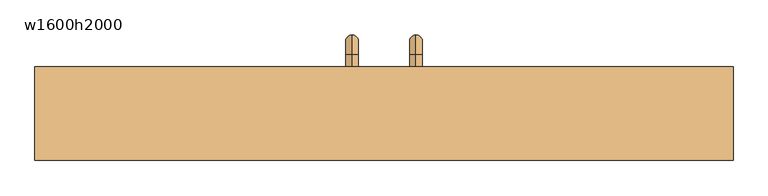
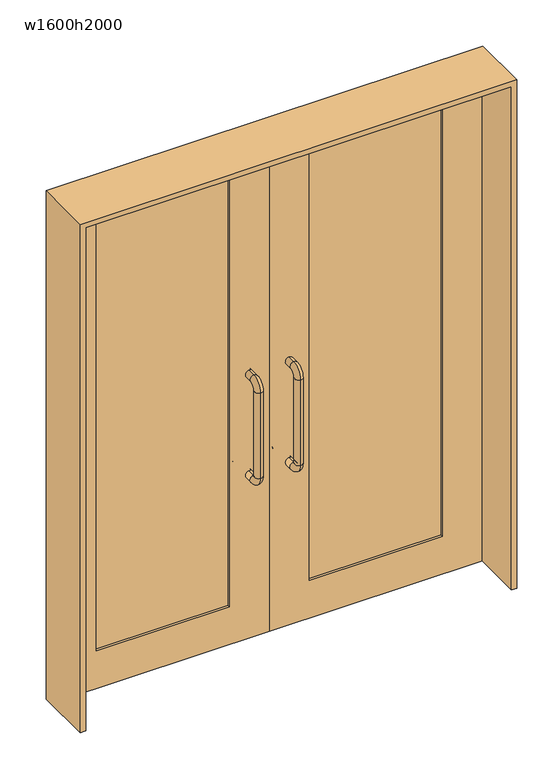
"""IFC4 building model written with IfcOpenShell, lengths in millimetres: door geometry, 両開_ガラス四方框 : w1600h2000."""

import ifcopenshell
import ifcopenshell.guid

model = None  # the IFC model being written
_history = None  # IfcOwnerHistory: only IFC2X3 demands one
_inside = {}  # id of a spatial element -> (the spatial element, [elements in it])
_under = {}  # id of a project, library or spatial element -> (it, [spatial elements below it])
_declared = {}  # id of a project -> (the project, [libraries it declares])
_typed = {}  # id of a type object -> (the type object, [elements of that type])
_made_of = {}  # id of a material, layer set ... -> (it, [elements and type objects made of it])


def new_model(schema):
    """Start an empty IFC model of exactly this schema.

    Asked for "IFC4X3", IfcOpenShell would pick the latest addendum, in which some entities
    have other attributes; the version numbers below select the first issue.
    IFC2X3 requires an IfcOwnerHistory on every rooted entity: one is made here for all.
    """
    global model, _history
    if schema == "IFC4X3":
        model = ifcopenshell.file(schema_version=(4, 3, 0, 0))
    else:
        model = ifcopenshell.file(schema=schema)
    _inside.clear()
    _under.clear()
    _declared.clear()
    _typed.clear()
    _made_of.clear()
    _history = None
    if model.schema == "IFC2X3":
        org = make("IfcOrganization", Name="unknown")
        user = make(
            "IfcPersonAndOrganization",
            ThePerson=make("IfcPerson", FamilyName="unknown"),
            TheOrganization=org,
        )
        app = make(
            "IfcApplication",
            ApplicationDeveloper=org,
            Version="unknown",
            ApplicationFullName="unknown",
            ApplicationIdentifier="unknown",
        )
        _history = make(
            "IfcOwnerHistory",
            OwningUser=user,
            OwningApplication=app,
            ChangeAction="ADDED",
            CreationDate=0,
        )
    return model


def make(cls, **values):
    """One entity of the class cls with the attributes given. An attribute that is None is left unset."""
    return model.create_entity(
        cls, **{name: value for name, value in values.items() if value is not None}
    )


def rooted(cls, **values):
    """An entity with a GlobalId (a new one), such as an element, a storey or a relation."""
    return make(cls, GlobalId=ifcopenshell.guid.new(), OwnerHistory=_history, **values)


def si_unit(unit_type, name, prefix=None):
    """IfcSIUnit, for example si_unit("LENGTHUNIT", "METRE", prefix="MILLI")."""
    return make("IfcSIUnit", UnitType=unit_type, Prefix=prefix, Name=name)


def assignment(units):
    """IfcUnitAssignment: the units of a project."""
    return None if units is None else make("IfcUnitAssignment", Units=units)


def point(xyz):
    """IfcCartesianPoint."""
    return None if xyz is None else make("IfcCartesianPoint", Coordinates=xyz)


def direction(xyz):
    """IfcDirection."""
    return None if xyz is None else make("IfcDirection", DirectionRatios=xyz)


def frame(location, z_axis=None, x_axis=None):
    """IfcAxis2Placement3D, a coordinate frame: its origin and axes. An axis left out is left unset."""
    return make(
        "IfcAxis2Placement3D",
        Location=point(location),
        Axis=direction(z_axis),
        RefDirection=direction(x_axis),
    )


def origin():
    """The frame at (0, 0, 0) with its axes left unset."""
    return frame((0.0, 0.0, 0.0))


def place(relative_to, where):
    """IfcLocalPlacement: puts the frame where relative to a parent placement (None: the world)."""
    return make(
        "IfcLocalPlacement", PlacementRelTo=relative_to, RelativePlacement=where
    )


def context(
    kind, dimensions, precision=None, world=None, true_north=None, identifier=None
):
    """IfcGeometricRepresentationContext, for example the 3D "Model" context."""
    return make(
        "IfcGeometricRepresentationContext",
        ContextIdentifier=identifier,
        ContextType=kind,
        CoordinateSpaceDimension=dimensions,
        Precision=precision,
        WorldCoordinateSystem=world,
        TrueNorth=true_north,
    )


def project(units=None, contexts=None):
    """IfcProject with its units and contexts."""
    return rooted(
        "IfcProject",
        Name="project",
        RepresentationContexts=contexts,
        UnitsInContext=assignment(units),
    )


def spatial(cls, under=None, at=None, **own):
    """A site, building, storey or space (cls), placed at a placement, below another one or the project."""
    s = rooted(cls, ObjectPlacement=at, **own)
    if under is not None:
        _under.setdefault(under.id(), (under, []))[1].append(s)
    return s


def polyline(points):
    """IfcPolyline through the points."""
    return make("IfcPolyline", Points=[point(p) for p in points])


def circle_curve(where, radius):
    """IfcCircle in the frame where."""
    return make("IfcCircle", Position=where, Radius=radius)


def ellipse_curve(where, semi_axis1, semi_axis2):
    """IfcEllipse in the frame where."""
    return make(
        "IfcEllipse", Position=where, SemiAxis1=semi_axis1, SemiAxis2=semi_axis2
    )


def trimmed(basis, trim1, trim2, sense, master):
    """IfcTrimmedCurve: the piece of a basis curve between two trims."""
    return make(
        "IfcTrimmedCurve",
        BasisCurve=basis,
        Trim1=trim1,
        Trim2=trim2,
        SenseAgreement=sense,
        MasterRepresentation=master,
    )


def outline(outer, holes=None, kind="AREA"):
    """IfcArbitraryClosedProfileDef: a profile drawn as a closed curve; with holes, ...WithVoids."""
    if holes is None:
        return make("IfcArbitraryClosedProfileDef", ProfileType=kind, OuterCurve=outer)
    return make(
        "IfcArbitraryProfileDefWithVoids",
        ProfileType=kind,
        OuterCurve=outer,
        InnerCurves=holes,
    )


def extrude(swept, where, along, depth):
    """IfcExtrudedAreaSolid: the profile swept, set in the frame where, extruded along a direction by depth."""
    return make(
        "IfcExtrudedAreaSolid",
        SweptArea=swept,
        Position=where,
        ExtrudedDirection=direction(along),
        Depth=depth,
    )


def shape(context_of_items, identifier, shape_type, items):
    """IfcShapeRepresentation: the items that make up one representation, for example the "Body"."""
    return make(
        "IfcShapeRepresentation",
        ContextOfItems=context_of_items,
        RepresentationIdentifier=identifier,
        RepresentationType=shape_type,
        Items=items,
    )


def source(mapping_origin, context_of_items, identifier, shape_type, items):
    """IfcRepresentationMap: a shape defined once, which mapped items show again and again."""
    return make(
        "IfcRepresentationMap",
        MappingOrigin=mapping_origin,
        MappedRepresentation=shape(context_of_items, identifier, shape_type, items),
    )


def transform(
    local_origin,
    x_axis=None,
    y_axis=None,
    z_axis=None,
    scale=None,
    scale2=None,
    scale3=None,
    uniform=True,
):
    """IfcCartesianTransformationOperator3D, or its non-uniform kind. x_axis, y_axis, z_axis: its Axis1, 2, 3."""
    if uniform:
        return make(
            "IfcCartesianTransformationOperator3D",
            Axis1=direction(x_axis),
            Axis2=direction(y_axis),
            LocalOrigin=point(local_origin),
            Scale=scale,
            Axis3=direction(z_axis),
        )
    return make(
        "IfcCartesianTransformationOperator3DnonUniform",
        Axis1=direction(x_axis),
        Axis2=direction(y_axis),
        LocalOrigin=point(local_origin),
        Scale=scale,
        Axis3=direction(z_axis),
        Scale2=scale2,
        Scale3=scale3,
    )


def mapped(mapping_source, mapping_target):
    """IfcMappedItem: shows the shape of a source again, moved by a transform."""
    return make(
        "IfcMappedItem", MappingSource=mapping_source, MappingTarget=mapping_target
    )


def made_of(thing, what):
    """Note that an element or type object is made of a material, layer set ...; save() writes the relation."""
    if what is not None:
        _made_of.setdefault(what.id(), (what, []))[1].append(thing)
    return thing


def element(
    cls,
    number,
    at=None,
    inside=None,
    cuts=None,
    type_object=None,
    material=None,
    context=None,
    identifier="Body",
    shape_type=None,
    held_by="IfcProductDefinitionShape",
    body=None,
    shapes=None,
    **own,
):
    """One element of the class cls, such as IfcWall. Its Tag is "e" and its number.

    at: its placement. inside: the storey or other place that contains it. cuts: it is an
    opening in that element (IfcRelVoidsElement). A single representation is given by context,
    identifier, shape_type and body (its items); several are given by shapes. held_by: the class
    of the entity that holds the representations. save() writes the other relations.
    """
    e = rooted(cls, Tag="e%d" % number, ObjectPlacement=at, **own)
    if body is not None:
        shapes = [shape(context, identifier, shape_type, body)]
    if shapes is not None:
        e.Representation = make(held_by, Representations=shapes)
    if inside is not None:
        _inside.setdefault(inside.id(), (inside, []))[1].append(e)
    if cuts is not None:
        rooted(
            "IfcRelVoidsElement", RelatingBuildingElement=cuts, RelatedOpeningElement=e
        )
    if type_object is not None:
        _typed.setdefault(type_object.id(), (type_object, []))[1].append(e)
    return made_of(e, material)


def aggregate(whole, parts):
    """IfcRelAggregates: a whole, such as a stair, and the parts it consists of."""
    return rooted("IfcRelAggregates", RelatingObject=whole, RelatedObjects=parts)


def save(model, path):
    """Write the relations noted so far, then the file.

    IfcRelAggregates (storeys below a building ...), IfcRelContainedInSpatialStructure (elements
    in a storey), IfcRelDefinesByType, IfcRelAssociatesMaterial and IfcRelDeclares: one each for
    every whole, place, type object, material and project.
    """
    for whole, parts in _under.values():
        aggregate(whole, parts)
    for where, things in _inside.values():
        rooted(
            "IfcRelContainedInSpatialStructure",
            RelatedElements=things,
            RelatingStructure=where,
        )
    for kind, things in _typed.values():
        rooted("IfcRelDefinesByType", RelatedObjects=things, RelatingType=kind)
    for what, things in _made_of.values():
        rooted("IfcRelAssociatesMaterial", RelatedObjects=things, RelatingMaterial=what)
    for by, libraries in _declared.values():
        rooted("IfcRelDeclares", RelatingContext=by, RelatedDefinitions=libraries)
    model.write(path)


def cylinder_surface(at, radius):
    """IfcCylindricalSurface: all points at the distance radius from the z axis of the frame at."""
    return make("IfcCylindricalSurface", Position=at, Radius=radius)


def revolved_surface(curve, axis_point, axis_direction):
    """IfcSurfaceOfRevolution: the curve turned about the line through axis_point along axis_direction."""
    return make(
        "IfcSurfaceOfRevolution",
        SweptCurve=make("IfcArbitraryOpenProfileDef", ProfileType="CURVE", Curve=curve),
        AxisPosition=make("IfcAxis1Placement", Location=point(axis_point), Axis=direction(axis_direction)),
    )


def advanced_brep(points, edges, surfaces, faces):
    """IfcAdvancedBrep: a solid bounded by faces that lie on surfaces and meet in shared edges.

    An edge is (start, end): straight between two places in points (the first is 0);
    or (start, end, curve); or (start, end, curve, False) where it runs against its curve.
    A face is (place in surfaces, loops), or (place, loops, False) where it looks against
    its surface's normal. A loop lists edges by number (the first is 1), with a minus sign
    where the edge is run from its end to its start. The first loop is the outer one.
    """
    corners = [point(p) for p in points]
    vertices = [make("IfcVertexPoint", VertexGeometry=c) for c in corners]
    made = []
    for start, end, *more in edges:
        made.append(
            make(
                "IfcEdgeCurve",
                EdgeStart=vertices[start],
                EdgeEnd=vertices[end],
                EdgeGeometry=more[0] if more else make("IfcPolyline", Points=[corners[start], corners[end]]),
                SameSense=more[1] if len(more) > 1 else True,
            )
        )
    hull = []
    for where, loops, *sense in faces:
        bounds = []
        for j, loop in enumerate(loops):
            ring = [make("IfcOrientedEdge", EdgeElement=made[abs(k) - 1], Orientation=k > 0) for k in loop]
            bounds.append(
                make(
                    "IfcFaceOuterBound" if j == 0 else "IfcFaceBound",
                    Bound=make("IfcEdgeLoop", EdgeList=ring),
                    Orientation=True,
                )
            )
        hull.append(make("IfcAdvancedFace", Bounds=bounds, FaceSurface=surfaces[where], SameSense=sense[0] if sense else True))
    return make("IfcAdvancedBrep", Outer=make("IfcClosedShell", CfsFaces=hull))


def w1600h2000_3fdee943(model_context):
    return source(origin(), model_context, "Body", "SolidModel", [
        advanced_brep(
        [(75.0, 155.0, 680.0), (75.0, 140.0, 665.0), (75.0, 140.0, 635.0), (75.0, 185.0, 680.0), (75.0, 185.0, 1020.0), (75.0, 155.0, 1020.0), (75.0, 140.0, 1035.0), (75.0, 140.0, 1065.0), (75.0, 50.0, 1065.0), (75.0, 50.0, 1035.0), (75.0, 35.0, 1020.0), (75.0, 5.0, 1020.0), (75.0, 5.0, 680.0), (75.0, 35.0, 680.0), (75.0, 50.0, 665.0), (75.0, 50.0, 635.0)],
        [
            (0, 1, circle_curve(frame((75.0, 140.0, 680.0), z_axis=(-1.0, 0.0, 0.0), x_axis=(0.0, 0.0, -1.0)), 15.0)),
            (1, 2, circle_curve(frame((75.0, 140.0, 650.0), z_axis=(0.0, 1.0, 0.0), x_axis=(0.0, 0.0, 1.0)), 15.0)),
            (2, 3, circle_curve(frame((75.0, 140.0, 680.0), z_axis=(1.0, 0.0, 0.0), x_axis=(0.0, 0.0, -1.0)), 45.0)),
            (3, 0, circle_curve(frame((75.0, 170.0, 680.0), z_axis=(0.0, 0.0, -1.0), x_axis=(0.0, -1.0, 0.0)), 15.0)),
            (2, 1, circle_curve(frame((75.0, 140.0, 650.0), z_axis=(0.0, 1.0, 0.0), x_axis=(0.0, 0.0, 1.0)), 15.0)),
            (0, 3, circle_curve(frame((75.0, 170.0, 680.0), z_axis=(0.0, 0.0, -1.0), x_axis=(0.0, -1.0, 0.0)), 15.0)),
            (3, 4),
            (4, 5, circle_curve(frame((75.0, 170.0, 1020.0), z_axis=(0.0, 0.0, -1.0), x_axis=(0.0, -1.0, 0.0)), 15.0)),
            (5, 0),
            (5, 4, circle_curve(frame((75.0, 170.0, 1020.0), z_axis=(0.0, 0.0, -1.0), x_axis=(0.0, -1.0, 0.0)), 15.0)),
            (6, 5, circle_curve(frame((75.0, 140.0, 1020.0), z_axis=(-1.0, 0.0, 0.0), x_axis=(0.0, 1.0, 0.0)), 15.0)),
            (4, 7, circle_curve(frame((75.0, 140.0, 1020.0), z_axis=(1.0, 0.0, 0.0), x_axis=(0.0, 1.0, 0.0)), 45.0)),
            (7, 6, circle_curve(frame((75.0, 140.0, 1050.0), z_axis=(0.0, 1.0, 0.0), x_axis=(0.0, 0.0, -1.0)), 15.0)),
            (6, 7, circle_curve(frame((75.0, 140.0, 1050.0), z_axis=(0.0, 1.0, 0.0), x_axis=(0.0, 0.0, -1.0)), 15.0)),
            (7, 8),
            (8, 9, circle_curve(frame((75.0, 50.0, 1050.0), z_axis=(0.0, 1.0, 0.0), x_axis=(0.0, 0.0, -1.0)), 15.0)),
            (9, 6),
            (9, 8, circle_curve(frame((75.0, 50.0, 1050.0), z_axis=(0.0, 1.0, 0.0), x_axis=(0.0, 0.0, -1.0)), 15.0)),
            (10, 9, circle_curve(frame((75.0, 50.0, 1020.0), z_axis=(-1.0, 0.0, 0.0), x_axis=(0.0, 0.0, 1.0)), 15.0)),
            (8, 11, circle_curve(frame((75.0, 50.0, 1020.0), z_axis=(1.0, 0.0, 0.0), x_axis=(0.0, 0.0, 1.0)), 45.0)),
            (11, 10, circle_curve(frame((75.0, 20.0, 1020.0), z_axis=(0.0, 0.0, 1.0), x_axis=(0.0, 1.0, 0.0)), 15.0)),
            (10, 11, circle_curve(frame((75.0, 20.0, 1020.0), z_axis=(0.0, 0.0, 1.0), x_axis=(0.0, 1.0, 0.0)), 15.0)),
            (11, 12),
            (12, 13, circle_curve(frame((75.0, 20.0, 680.0), z_axis=(0.0, 0.0, 1.0), x_axis=(0.0, 1.0, 0.0)), 15.0)),
            (13, 10),
            (13, 12, circle_curve(frame((75.0, 20.0, 680.0), z_axis=(0.0, 0.0, 1.0), x_axis=(0.0, 1.0, 0.0)), 15.0)),
            (14, 13, circle_curve(frame((75.0, 50.0, 680.0), z_axis=(-1.0, 0.0, 0.0), x_axis=(0.0, -1.0, 0.0)), 15.0)),
            (12, 15, circle_curve(frame((75.0, 50.0, 680.0), z_axis=(1.0, 0.0, 0.0), x_axis=(0.0, -1.0, 0.0)), 45.0)),
            (15, 14, circle_curve(frame((75.0, 50.0, 650.0), z_axis=(0.0, -1.0, 0.0), x_axis=(0.0, 0.0, 1.0)), 15.0)),
            (14, 15, circle_curve(frame((75.0, 50.0, 650.0), z_axis=(0.0, -1.0, 0.0), x_axis=(0.0, 0.0, 1.0)), 15.0)),
            (15, 2),
            (1, 14),
        ],
        [
            revolved_surface(trimmed(ellipse_curve(frame((75.0, 140.0, 650.0), z_axis=(0.0, -1.0, 0.0), x_axis=(0.0, 0.0, 1.0)), 15.0, 15.0), [point((75.0, 140.0, 635.0))], [point((75.0, 140.0, 665.0))], True, "CARTESIAN"), (75.0, 140.0, 680.0), (1.0, 0.0, 0.0)),
            revolved_surface(trimmed(ellipse_curve(frame((75.0, 140.0, 650.0), z_axis=(0.0, -1.0, 0.0), x_axis=(0.0, 0.0, 1.0)), 15.0, 15.0), [point((75.0, 140.0, 665.0))], [point((75.0, 140.0, 635.0))], True, "CARTESIAN"), (75.0, 140.0, 680.0), (1.0, 0.0, 0.0)),
            cylinder_surface(frame((75.0, 170.0, 680.0), z_axis=(0.0, 0.0, -1.0), x_axis=(0.0, -1.0, 0.0)), 15.0),
            revolved_surface(trimmed(ellipse_curve(frame((75.0, 170.0, 1020.0), z_axis=(0.0, 0.0, -1.0), x_axis=(0.0, -1.0, 0.0)), 15.0, 15.0), [point((75.0, 185.0, 1020.0))], [point((75.0, 155.0, 1020.0))], True, "CARTESIAN"), (75.0, 140.0, 1020.0), (1.0, 0.0, 0.0)),
            revolved_surface(trimmed(ellipse_curve(frame((75.0, 170.0, 1020.0), z_axis=(0.0, 0.0, -1.0), x_axis=(0.0, -1.0, 0.0)), 15.0, 15.0), [point((75.0, 155.0, 1020.0))], [point((75.0, 185.0, 1020.0))], True, "CARTESIAN"), (75.0, 140.0, 1020.0), (1.0, 0.0, 0.0)),
            cylinder_surface(frame((75.0, 140.0, 1050.0), z_axis=(0.0, 1.0, 0.0), x_axis=(0.0, 0.0, -1.0)), 15.0),
            revolved_surface(trimmed(ellipse_curve(frame((75.0, 50.0, 1050.0), z_axis=(0.0, 1.0, 0.0), x_axis=(0.0, 0.0, -1.0)), 15.0, 15.0), [point((75.0, 50.0, 1065.0))], [point((75.0, 50.0, 1035.0))], True, "CARTESIAN"), (75.0, 50.0, 1020.0), (1.0, 0.0, 0.0)),
            revolved_surface(trimmed(ellipse_curve(frame((75.0, 50.0, 1050.0), z_axis=(0.0, 1.0, 0.0), x_axis=(0.0, 0.0, -1.0)), 15.0, 15.0), [point((75.0, 50.0, 1035.0))], [point((75.0, 50.0, 1065.0))], True, "CARTESIAN"), (75.0, 50.0, 1020.0), (1.0, 0.0, 0.0)),
            cylinder_surface(frame((75.0, 20.0, 1020.0), z_axis=(0.0, 0.0, 1.0), x_axis=(0.0, 1.0, 0.0)), 15.0),
            revolved_surface(trimmed(ellipse_curve(frame((75.0, 20.0, 680.0), z_axis=(0.0, 0.0, 1.0), x_axis=(0.0, 1.0, 0.0)), 15.0, 15.0), [point((75.0, 5.0, 680.0))], [point((75.0, 35.0, 680.0))], True, "CARTESIAN"), (75.0, 50.0, 680.0), (1.0, 0.0, 0.0)),
            revolved_surface(trimmed(ellipse_curve(frame((75.0, 20.0, 680.0), z_axis=(0.0, 0.0, 1.0), x_axis=(0.0, 1.0, 0.0)), 15.0, 15.0), [point((75.0, 35.0, 680.0))], [point((75.0, 5.0, 680.0))], True, "CARTESIAN"), (75.0, 50.0, 680.0), (1.0, 0.0, 0.0)),
            cylinder_surface(frame((75.0, 50.0, 650.0), z_axis=(0.0, -1.0, 0.0), x_axis=(0.0, 0.0, 1.0)), 15.0),
        ],
        [
            (0, [[1, 2, 3, 4]]),
            (1, [[-3, 5, -1, 6]]),
            (2, [[-4, 7, 8, 9]]),
            (2, [[-6, -9, 10, -7]]),
            (3, [[11, -8, 12, 13]]),
            (4, [[-12, -10, -11, 14]]),
            (5, [[-13, 15, 16, 17]]),
            (5, [[-14, -17, 18, -15]]),
            (6, [[19, -16, 20, 21]]),
            (7, [[-20, -18, -19, 22]]),
            (8, [[-21, 23, 24, 25]]),
            (8, [[-22, -25, 26, -23]]),
            (9, [[27, -24, 28, 29]]),
            (10, [[-28, -26, -27, 30]]),
            (11, [[-29, 31, -2, 32]]),
            (11, [[-30, -32, -5, -31]]),
        ],
    ),
        advanced_brep(
        [(-75.0, 155.0, 680.0), (-75.0, 140.0, 665.0), (-75.0, 140.0, 635.0), (-75.0, 185.0, 680.0), (-75.0, 185.0, 1020.0), (-75.0, 155.0, 1020.0), (-75.0, 140.0, 1035.0), (-75.0, 140.0, 1065.0), (-75.0, 50.0, 1065.0), (-75.0, 50.0, 1035.0), (-75.0, 35.0, 1020.0), (-75.0, 5.0, 1020.0), (-75.0, 5.0, 680.0), (-75.0, 35.0, 680.0), (-75.0, 50.0, 665.0), (-75.0, 50.0, 635.0)],
        [
            (0, 1, circle_curve(frame((-75.0, 140.0, 680.0), z_axis=(-1.0, 0.0, 0.0), x_axis=(0.0, 0.0, -1.0)), 15.0)),
            (1, 2, circle_curve(frame((-75.0, 140.0, 650.0), z_axis=(0.0, 1.0, 0.0), x_axis=(0.0, 0.0, 1.0)), 15.0)),
            (2, 3, circle_curve(frame((-75.0, 140.0, 680.0), z_axis=(1.0, 0.0, 0.0), x_axis=(0.0, 0.0, -1.0)), 45.0)),
            (3, 0, circle_curve(frame((-75.0, 170.0, 680.0), z_axis=(0.0, 0.0, -1.0), x_axis=(0.0, -1.0, 0.0)), 15.0)),
            (2, 1, circle_curve(frame((-75.0, 140.0, 650.0), z_axis=(0.0, 1.0, 0.0), x_axis=(0.0, 0.0, 1.0)), 15.0)),
            (0, 3, circle_curve(frame((-75.0, 170.0, 680.0), z_axis=(0.0, 0.0, -1.0), x_axis=(0.0, -1.0, 0.0)), 15.0)),
            (3, 4),
            (4, 5, circle_curve(frame((-75.0, 170.0, 1020.0), z_axis=(0.0, 0.0, -1.0), x_axis=(0.0, -1.0, 0.0)), 15.0)),
            (5, 0),
            (5, 4, circle_curve(frame((-75.0, 170.0, 1020.0), z_axis=(0.0, 0.0, -1.0), x_axis=(0.0, -1.0, 0.0)), 15.0)),
            (6, 5, circle_curve(frame((-75.0, 140.0, 1020.0), z_axis=(-1.0, 0.0, 0.0), x_axis=(0.0, 1.0, 0.0)), 15.0)),
            (4, 7, circle_curve(frame((-75.0, 140.0, 1020.0), z_axis=(1.0, 0.0, 0.0), x_axis=(0.0, 1.0, 0.0)), 45.0)),
            (7, 6, circle_curve(frame((-75.0, 140.0, 1050.0), z_axis=(0.0, 1.0, 0.0), x_axis=(0.0, 0.0, -1.0)), 15.0)),
            (6, 7, circle_curve(frame((-75.0, 140.0, 1050.0), z_axis=(0.0, 1.0, 0.0), x_axis=(0.0, 0.0, -1.0)), 15.0)),
            (7, 8),
            (8, 9, circle_curve(frame((-75.0, 50.0, 1050.0), z_axis=(0.0, 1.0, 0.0), x_axis=(0.0, 0.0, -1.0)), 15.0)),
            (9, 6),
            (9, 8, circle_curve(frame((-75.0, 50.0, 1050.0), z_axis=(0.0, 1.0, 0.0), x_axis=(0.0, 0.0, -1.0)), 15.0)),
            (10, 9, circle_curve(frame((-75.0, 50.0, 1020.0), z_axis=(-1.0, 0.0, 0.0), x_axis=(0.0, 0.0, 1.0)), 15.0)),
            (8, 11, circle_curve(frame((-75.0, 50.0, 1020.0), z_axis=(1.0, 0.0, 0.0), x_axis=(0.0, 0.0, 1.0)), 45.0)),
            (11, 10, circle_curve(frame((-75.0, 20.0, 1020.0), z_axis=(0.0, 0.0, 1.0), x_axis=(0.0, 1.0, 0.0)), 15.0)),
            (10, 11, circle_curve(frame((-75.0, 20.0, 1020.0), z_axis=(0.0, 0.0, 1.0), x_axis=(0.0, 1.0, 0.0)), 15.0)),
            (11, 12),
            (12, 13, circle_curve(frame((-75.0, 20.0, 680.0), z_axis=(0.0, 0.0, 1.0), x_axis=(0.0, 1.0, 0.0)), 15.0)),
            (13, 10),
            (13, 12, circle_curve(frame((-75.0, 20.0, 680.0), z_axis=(0.0, 0.0, 1.0), x_axis=(0.0, 1.0, 0.0)), 15.0)),
            (14, 13, circle_curve(frame((-75.0, 50.0, 680.0), z_axis=(-1.0, 0.0, 0.0), x_axis=(0.0, -1.0, 0.0)), 15.0)),
            (12, 15, circle_curve(frame((-75.0, 50.0, 680.0), z_axis=(1.0, 0.0, 0.0), x_axis=(0.0, -1.0, 0.0)), 45.0)),
            (15, 14, circle_curve(frame((-75.0, 50.0, 650.0), z_axis=(0.0, -1.0, 0.0), x_axis=(0.0, 0.0, 1.0)), 15.0)),
            (14, 15, circle_curve(frame((-75.0, 50.0, 650.0), z_axis=(0.0, -1.0, 0.0), x_axis=(0.0, 0.0, 1.0)), 15.0)),
            (15, 2),
            (1, 14),
        ],
        [
            revolved_surface(trimmed(ellipse_curve(frame((-75.0, 140.0, 650.0), z_axis=(0.0, -1.0, 0.0), x_axis=(0.0, 0.0, 1.0)), 15.0, 15.0), [point((-75.0, 140.0, 635.0))], [point((-75.0, 140.0, 665.0))], True, "CARTESIAN"), (-75.0, 140.0, 680.0), (1.0, 0.0, 0.0)),
            revolved_surface(trimmed(ellipse_curve(frame((-75.0, 140.0, 650.0), z_axis=(0.0, -1.0, 0.0), x_axis=(0.0, 0.0, 1.0)), 15.0, 15.0), [point((-75.0, 140.0, 665.0))], [point((-75.0, 140.0, 635.0))], True, "CARTESIAN"), (-75.0, 140.0, 680.0), (1.0, 0.0, 0.0)),
            cylinder_surface(frame((-75.0, 170.0, 680.0), z_axis=(0.0, 0.0, -1.0), x_axis=(0.0, -1.0, 0.0)), 15.0),
            revolved_surface(trimmed(ellipse_curve(frame((-75.0, 170.0, 1020.0), z_axis=(0.0, 0.0, -1.0), x_axis=(0.0, -1.0, 0.0)), 15.0, 15.0), [point((-75.0, 185.0, 1020.0))], [point((-75.0, 155.0, 1020.0))], True, "CARTESIAN"), (-75.0, 140.0, 1020.0), (1.0, 0.0, 0.0)),
            revolved_surface(trimmed(ellipse_curve(frame((-75.0, 170.0, 1020.0), z_axis=(0.0, 0.0, -1.0), x_axis=(0.0, -1.0, 0.0)), 15.0, 15.0), [point((-75.0, 155.0, 1020.0))], [point((-75.0, 185.0, 1020.0))], True, "CARTESIAN"), (-75.0, 140.0, 1020.0), (1.0, 0.0, 0.0)),
            cylinder_surface(frame((-75.0, 140.0, 1050.0), z_axis=(0.0, 1.0, 0.0), x_axis=(0.0, 0.0, -1.0)), 15.0),
            revolved_surface(trimmed(ellipse_curve(frame((-75.0, 50.0, 1050.0), z_axis=(0.0, 1.0, 0.0), x_axis=(0.0, 0.0, -1.0)), 15.0, 15.0), [point((-75.0, 50.0, 1065.0))], [point((-75.0, 50.0, 1035.0))], True, "CARTESIAN"), (-75.0, 50.0, 1020.0), (1.0, 0.0, 0.0)),
            revolved_surface(trimmed(ellipse_curve(frame((-75.0, 50.0, 1050.0), z_axis=(0.0, 1.0, 0.0), x_axis=(0.0, 0.0, -1.0)), 15.0, 15.0), [point((-75.0, 50.0, 1035.0))], [point((-75.0, 50.0, 1065.0))], True, "CARTESIAN"), (-75.0, 50.0, 1020.0), (1.0, 0.0, 0.0)),
            cylinder_surface(frame((-75.0, 20.0, 1020.0), z_axis=(0.0, 0.0, 1.0), x_axis=(0.0, 1.0, 0.0)), 15.0),
            revolved_surface(trimmed(ellipse_curve(frame((-75.0, 20.0, 680.0), z_axis=(0.0, 0.0, 1.0), x_axis=(0.0, 1.0, 0.0)), 15.0, 15.0), [point((-75.0, 5.0, 680.0))], [point((-75.0, 35.0, 680.0))], True, "CARTESIAN"), (-75.0, 50.0, 680.0), (1.0, 0.0, 0.0)),
            revolved_surface(trimmed(ellipse_curve(frame((-75.0, 20.0, 680.0), z_axis=(0.0, 0.0, 1.0), x_axis=(0.0, 1.0, 0.0)), 15.0, 15.0), [point((-75.0, 35.0, 680.0))], [point((-75.0, 5.0, 680.0))], True, "CARTESIAN"), (-75.0, 50.0, 680.0), (1.0, 0.0, 0.0)),
            cylinder_surface(frame((-75.0, 50.0, 650.0), z_axis=(0.0, -1.0, 0.0), x_axis=(0.0, 0.0, 1.0)), 15.0),
        ],
        [
            (0, [[1, 2, 3, 4]]),
            (1, [[-3, 5, -1, 6]]),
            (2, [[-4, 7, 8, 9]]),
            (2, [[-6, -9, 10, -7]]),
            (3, [[11, -8, 12, 13]]),
            (4, [[-12, -10, -11, 14]]),
            (5, [[-13, 15, 16, 17]]),
            (5, [[-14, -17, 18, -15]]),
            (6, [[19, -16, 20, 21]]),
            (7, [[-20, -18, -19, 22]]),
            (8, [[-21, 23, 24, 25]]),
            (8, [[-22, -25, 26, -23]]),
            (9, [[27, -24, 28, 29]]),
            (10, [[-28, -26, -27, 30]]),
            (11, [[-29, 31, -2, 32]]),
            (11, [[-30, -32, -5, -31]]),
        ],
    ),
        extrude(outline(polyline([(-150.0, 90.0), (-650.0, 90.0), (-650.0, 92.5), (-150.0, 92.5), (-150.0, 90.0)])), frame((0.0, 0.0, 150.0), z_axis=(0.0, 0.0, 1.0), x_axis=(1.0, 0.0, 0.0)), (0.0, 0.0, 1.0), 1700.0),
        extrude(outline(polyline([(650.0, 90.0), (150.0, 90.0), (150.0, 92.5), (650.0, 92.5), (650.0, 90.0)])), frame((0.0, 0.0, 150.0), z_axis=(0.0, 0.0, 1.0), x_axis=(1.0, 0.0, 0.0)), (0.0, 0.0, 1.0), 1700.0),
        extrude(outline(polyline([(2000.0, 0.0), (2000.0, -800.0), (0.0, -800.0), (0.0, 0.0), (2000.0, 0.0)]), holes=[polyline([(1850.0, -150.0), (150.0, -150.0), (150.0, -650.0), (1850.0, -650.0), (1850.0, -150.0)])]), frame((0.0, 80.0, 0.0), z_axis=(0.0, 1.0, 0.0), x_axis=(0.0, 0.0, 1.0)), (0.0, 0.0, 1.0), 30.0),
        extrude(outline(polyline([(2020.0, -820.0), (0.0, -820.0), (0.0, -800.0), (2000.0, -800.0), (2000.0, 800.0), (0.0, 800.0), (0.0, 820.0), (2020.0, 820.0), (2020.0, -820.0)])), frame((0.0, -110.0, 0.0), z_axis=(0.0, 1.0, 0.0), x_axis=(0.0, 0.0, 1.0)), (0.0, 0.0, 1.0), 220.0),
        extrude(outline(polyline([(2000.0, 800.0), (2000.0, 0.0), (0.0, 0.0), (0.0, 800.0), (2000.0, 800.0)]), holes=[polyline([(1850.0, 650.0), (150.0, 650.0), (150.0, 150.0), (1850.0, 150.0), (1850.0, 650.0)])]), frame((0.0, 80.0, 0.0), z_axis=(0.0, 1.0, 0.0), x_axis=(0.0, 0.0, 1.0)), (0.0, 0.0, 1.0), 30.0),
    ])


if __name__ == "__main__":
    model = new_model("IFC4")
    model_context = context("Model", 3, world=origin())
    ifc_project = project(units=[si_unit("LENGTHUNIT", "METRE", prefix="MILLI")], contexts=[model_context])
    site = spatial("IfcSite", under=ifc_project)
    building = spatial("IfcBuilding", under=site)
    placement = place(None, origin())
    w1600h2000_shape = w1600h2000_3fdee943(model_context)
    element("IfcDoor", 1, ObjectType="両開_ガラス四方框 : w1600h2000", at=placement, inside=building, context=model_context, shape_type="MappedRepresentation", body=[
        mapped(w1600h2000_shape, transform((0.0, 0.0, 0.0), x_axis=(1.0, 0.0, 0.0), y_axis=(0.0, 1.0, 0.0), z_axis=(0.0, 0.0, 1.0))),
    ])
    save(model, "model.ifc")
